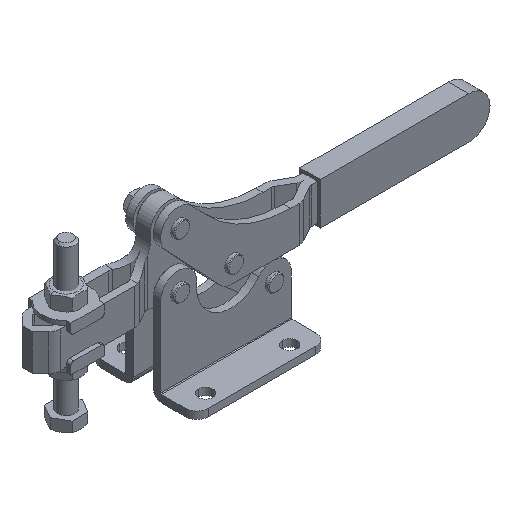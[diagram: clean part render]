
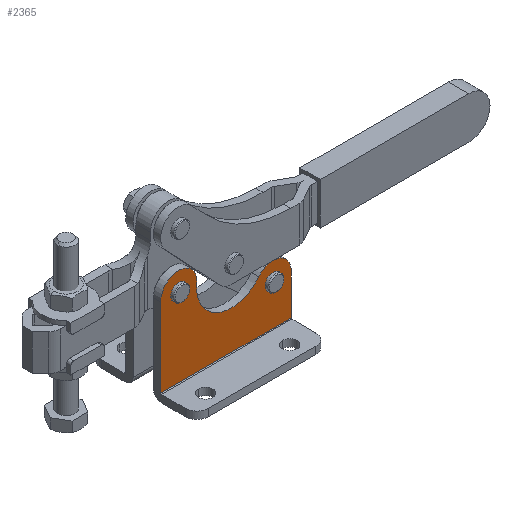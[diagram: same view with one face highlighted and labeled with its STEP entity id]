
A CAD part, isometric view. The second image highlights one B-rep face of the part: STEP entity #2365.
In plain terms, the highlighted planar face has unit normal (0, -1, 0).
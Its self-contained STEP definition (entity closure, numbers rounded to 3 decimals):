
#1940=CARTESIAN_POINT('Cartesian Point',(143.082,-12.,5.5)) ;
#1943=CARTESIAN_POINT('Line Origine',(98.082,-12.,5.5)) ;
#1947=CARTESIAN_POINT('Cartesian Point',(53.082,-12.,5.5)) ;
#2147=CARTESIAN_POINT('Line Origine',(53.082,-12.,32.75)) ;
#2151=CARTESIAN_POINT('Cartesian Point',(53.082,-12.,60.)) ;
#2253=CARTESIAN_POINT('Cartesian Point',(143.082,-12.,33.5)) ;
#2256=CARTESIAN_POINT('Line Origine',(143.082,-12.,19.5)) ;
#2293=CARTESIAN_POINT('Cartesian Point',(120.747,-12.,41.216)) ;
#2296=CARTESIAN_POINT('Axis2P3D Location',(130.582,-12.,33.5)) ;
#2324=CARTESIAN_POINT('Cartesian Point',(78.007,-12.,58.64)) ;
#2327=CARTESIAN_POINT('Axis2P3D Location',(101.865,-12.,56.03)) ;
#2339=CARTESIAN_POINT('Axis2P3D Location',(143.082,-12.,72.5)) ;
#2344=CARTESIAN_POINT('Axis2P3D Location',(65.582,-12.,60.)) ;
#2348=CARTESIAN_POINT('Cartesian Point',(65.582,-12.,72.5)) ;
#2351=CARTESIAN_POINT('Axis2P3D Location',(65.582,-12.,60.)) ;
#1944=DIRECTION('Vector Direction',(1.,0.,0.)) ;
#2148=DIRECTION('Vector Direction',(0.,0.,1.)) ;
#2257=DIRECTION('Vector Direction',(0.,0.,1.)) ;
#2297=DIRECTION('Axis2P3D Direction',(0.,1.,0.)) ;
#2328=DIRECTION('Axis2P3D Direction',(0.,1.,0.)) ;
#2340=DIRECTION('Axis2P3D Direction',(0.,-1.,0.)) ;
#2341=DIRECTION('Axis2P3D XDirection',(-1.,0.,0.)) ;
#2345=DIRECTION('Axis2P3D Direction',(0.,-1.,0.)) ;
#2352=DIRECTION('Axis2P3D Direction',(0.,-1.,0.)) ;
#2298=AXIS2_PLACEMENT_3D('Circle Axis2P3D',#2296,#2297,$) ;
#2329=AXIS2_PLACEMENT_3D('Circle Axis2P3D',#2327,#2328,$) ;
#2342=AXIS2_PLACEMENT_3D('Plane Axis2P3D',#2339,#2340,#2341) ;
#2346=AXIS2_PLACEMENT_3D('Circle Axis2P3D',#2344,#2345,$) ;
#2353=AXIS2_PLACEMENT_3D('Circle Axis2P3D',#2351,#2352,$) ;
#2357=ORIENTED_EDGE('Oriented Edge',*,*,#2260,.T.) ;
#2358=ORIENTED_EDGE('Oriented Edge',*,*,#2300,.F.) ;
#2359=ORIENTED_EDGE('Oriented Edge',*,*,#2331,.T.) ;
#2360=ORIENTED_EDGE('Oriented Edge',*,*,#2350,.F.) ;
#2361=ORIENTED_EDGE('Oriented Edge',*,*,#2355,.F.) ;
#2362=ORIENTED_EDGE('Oriented Edge',*,*,#2153,.F.) ;
#2363=ORIENTED_EDGE('Oriented Edge',*,*,#1949,.F.) ;
#1945=VECTOR('Line Direction',#1944,1.) ;
#2149=VECTOR('Line Direction',#2148,1.) ;
#2258=VECTOR('Line Direction',#2257,1.) ;
#2365=ADVANCED_FACE('',(#2364),#2343,.T.) ;
#2299=CIRCLE('generated circle',#2298,12.5) ;
#2330=CIRCLE('generated circle',#2329,24.) ;
#2347=CIRCLE('generated circle',#2346,12.5) ;
#2354=CIRCLE('generated circle',#2353,12.5) ;
#1949=EDGE_CURVE('',#1941,#1948,#1946,.F.) ;
#2153=EDGE_CURVE('',#1948,#2152,#2150,.T.) ;
#2260=EDGE_CURVE('',#1941,#2254,#2259,.T.) ;
#2300=EDGE_CURVE('',#2294,#2254,#2299,.T.) ;
#2331=EDGE_CURVE('',#2294,#2325,#2330,.T.) ;
#2350=EDGE_CURVE('',#2349,#2325,#2347,.F.) ;
#2355=EDGE_CURVE('',#2152,#2349,#2354,.F.) ;
#2356=EDGE_LOOP('Oriented Loop',(#2357,#2358,#2359,#2360,#2361,#2362,#2363)) ;
#2364=FACE_OUTER_BOUND('Face Bound',#2356,.T.) ;
#1946=LINE('Line',#1943,#1945) ;
#2150=LINE('Line',#2147,#2149) ;
#2259=LINE('Line',#2256,#2258) ;
#2343=PLANE('Plane',#2342) ;
#1941=VERTEX_POINT('Vertex Point',#1940) ;
#1948=VERTEX_POINT('Vertex Point',#1947) ;
#2152=VERTEX_POINT('Vertex Point',#2151) ;
#2254=VERTEX_POINT('Vertex Point',#2253) ;
#2294=VERTEX_POINT('Vertex Point',#2293) ;
#2325=VERTEX_POINT('Vertex Point',#2324) ;
#2349=VERTEX_POINT('Vertex Point',#2348) ;
